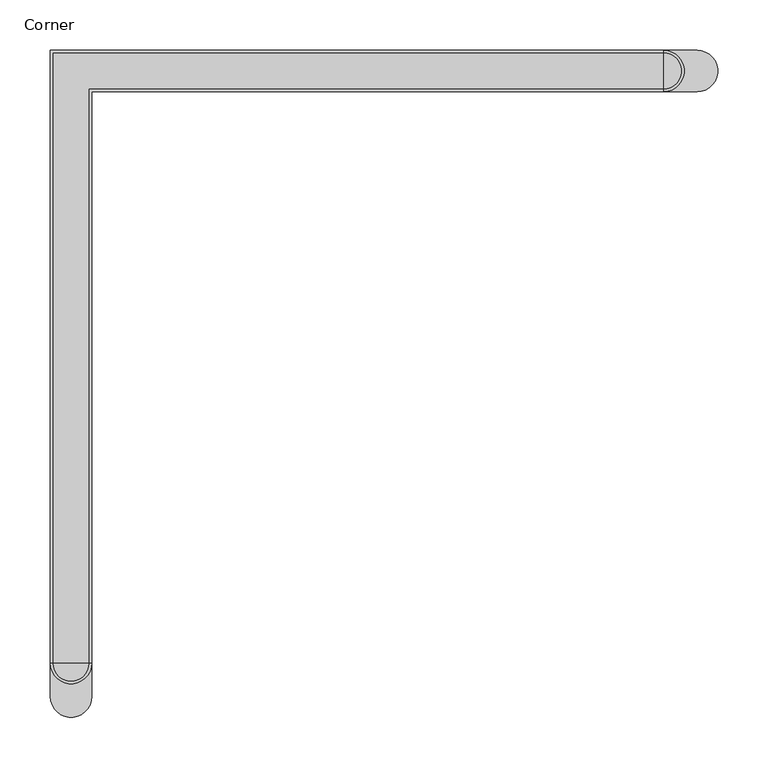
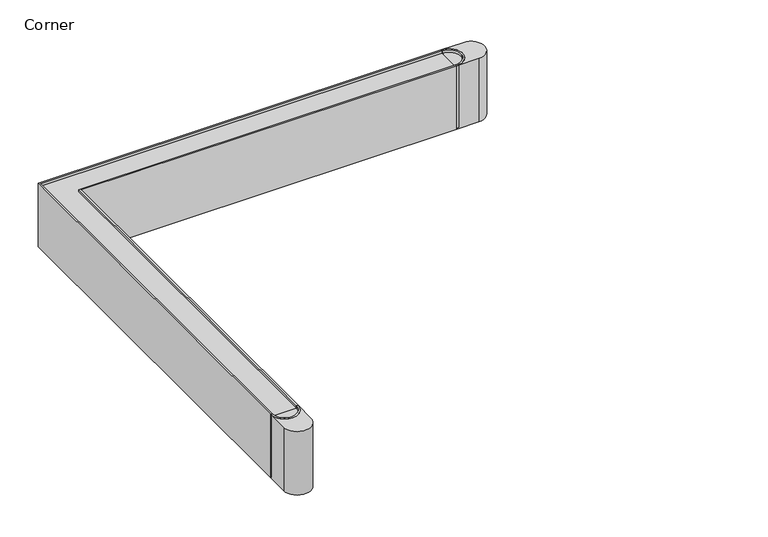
"""IFC4 building model written with IfcOpenShell, lengths in millimetres: light fixture geometry, Lighting-Recessed-Betacalco-Block-Corner : Corner."""

from ifc_helpers import new_model, si_unit, point, frame, frame_2d, origin, place, context, project, spatial, polyline, circle_curve, trimmed, segment, composite_curve, outline, extrude, source, transform, mapped, element, save
from ifc_brep_helpers import plane_surface, cylinder_surface, revolved_surface, advanced_brep


def corner_4978f48e(model_context):
    return source(origin(), model_context, "Body", "SolidModel", [
        extrude(outline(composite_curve([segment(polyline([(588.9625, -20.6375), (588.9625, -18.0975)]), True, "CONTINUOUS"), segment(trimmed(circle_curve(frame_2d((588.9625, 0.0)), 18.0975), [point((588.9625, -18.0975))], [point((588.9625, 18.0975))], True, "CARTESIAN"), True, "CONTINUOUS"), segment(polyline([(588.9625, 18.0975), (588.9625, 20.6375)]), True, "CONTINUOUS"), segment(trimmed(circle_curve(frame_2d((588.9625, 0.0)), 20.6375), [point((588.9625, 20.6375))], [point((588.9625, -20.6375))], False, "CARTESIAN"), True, "CONTINUOUS")], self_intersect=False)), frame((0.0, 0.0, -100.0125), z_axis=(0.0, 0.0, 1.0), x_axis=(1.0, 0.0, 0.0)), (0.0, 0.0, 1.0), 100.0125),
        extrude(outline(composite_curve([segment(polyline([(588.9625, -18.0975), (588.9625, 18.0975)]), True, "CONTINUOUS"), segment(trimmed(circle_curve(frame_2d((588.9625, 0.0)), 18.0975), [point((588.9625, 18.0975))], [point((588.9625, -18.0975))], False, "CARTESIAN"), True, "CONTINUOUS")], self_intersect=False)), frame((0.0, 0.0, -5.2904412), z_axis=(0.0, 0.0, 1.0), x_axis=(1.0, 0.0, 0.0)), (0.0, 0.0, 1.0), 1.5875),
        advanced_brep(
        [(588.9625, 20.6375, -100.0125), (588.9625, -20.6375, -100.0125), (588.9625, -20.6375, -101.6), (588.9625, 20.6375, -101.6), (622.3, 20.6375, -101.6), (622.3, -20.6375, -101.6), (588.9625, 20.6375, 0.0), (588.9625, -20.6375, 0.0), (622.3, -20.6375, 0.0), (622.3, 20.6375, 0.0)],
        [
            (0, 1),
            (1, 0, circle_curve(frame((588.9625, 0.0, -100.0125), z_axis=(0.0, 0.0, 1.0), x_axis=(1.0, 0.0, 0.0)), 20.6375)),
            (2, 3),
            (3, 4),
            (4, 5, circle_curve(frame((622.3, 0.0, -101.6), z_axis=(0.0, 0.0, -1.0), x_axis=(1.0, 0.0, 0.0)), 20.6375)),
            (5, 2),
            (0, 3),
            (2, 1),
            (6, 7, circle_curve(frame((588.9625, 0.0, 0.0), z_axis=(0.0, 0.0, -1.0), x_axis=(1.0, 0.0, 0.0)), 20.6375)),
            (7, 8),
            (8, 9, circle_curve(frame((622.3, 0.0, 0.0), z_axis=(0.0, 0.0, 1.0), x_axis=(1.0, 0.0, 0.0)), 20.6375)),
            (9, 6),
            (6, 0),
            (1, 7),
            (5, 8),
            (4, 9),
        ],
        [
            plane_surface(frame((609.6, 0.0, -100.0125), z_axis=(0.0, 0.0, 1.0), x_axis=(0.0, 1.0, 0.0))),
            plane_surface(frame((609.6, 0.0, -101.6), z_axis=(0.0, 0.0, -1.0), x_axis=(0.0, -1.0, 0.0))),
            plane_surface(frame((588.9625, 20.6375, -100.0125), z_axis=(-1.0, 0.0, 0.0), x_axis=(0.0, 0.0, -1.0))),
            plane_surface(frame((609.6, 0.0, 0.0), z_axis=(0.0, 0.0, 1.0), x_axis=(0.0, -1.0, 0.0))),
            revolved_surface(polyline([(609.6, 0.0, -100.0125), (609.6, 0.0, 0.0)]), (588.9625, 0.0, -101.6), (0.0, 0.0, -1.0)),
            plane_surface(frame((588.9625, -20.6375, 0.0), z_axis=(0.0, -1.0, 0.0), x_axis=(0.0, 0.0, -1.0))),
            cylinder_surface(frame((622.3, 0.0, -101.6), z_axis=(0.0, 0.0, 1.0), x_axis=(1.0, 0.0, 0.0)), 20.6375),
            plane_surface(frame((622.3, 20.6375, 0.0), z_axis=(0.0, 1.0, 0.0), x_axis=(0.0, 0.0, -1.0))),
        ],
        [
            (0, [[1, 2]]),
            (1, [[3, 4, 5, 6]]),
            (2, [[-1, 7, -3, 8]]),
            (3, [[9, 10, 11, 12]]),
            (4, [[-9, 13, -2, 14]]),
            (5, [[-10, -14, -8, -6, 15]]),
            (6, [[-11, -15, -5, 16]]),
            (7, [[-12, -16, -4, -7, -13]]),
        ],
    ),
        extrude(outline(composite_curve([segment(polyline([(-20.6375, -588.9625), (-18.0975, -588.9625)]), True, "CONTINUOUS"), segment(trimmed(circle_curve(frame_2d((0.0, -588.9625)), 18.0975), [point((-18.0975, -588.9625))], [point((18.0975, -588.9625))], True, "CARTESIAN"), True, "CONTINUOUS"), segment(polyline([(18.0975, -588.9625), (20.6375, -588.9625)]), True, "CONTINUOUS"), segment(trimmed(circle_curve(frame_2d((0.0, -588.9625)), 20.6375), [point((20.6375, -588.9625))], [point((-20.6375, -588.9625))], False, "CARTESIAN"), True, "CONTINUOUS")], self_intersect=False)), frame((0.0, 0.0, -100.0125), z_axis=(0.0, 0.0, 1.0), x_axis=(1.0, 0.0, 0.0)), (0.0, 0.0, 1.0), 100.0125),
        extrude(outline(composite_curve([segment(polyline([(-18.0975, -588.9625), (18.0975, -588.9625)]), True, "CONTINUOUS"), segment(trimmed(circle_curve(frame_2d((0.0, -588.9625)), 18.0975), [point((18.0975, -588.9625))], [point((-18.0975, -588.9625))], False, "CARTESIAN"), True, "CONTINUOUS")], self_intersect=False)), frame((0.0, 0.0, -5.2904412), z_axis=(0.0, 0.0, 1.0), x_axis=(1.0, 0.0, 0.0)), (0.0, 0.0, 1.0), 1.5875),
        advanced_brep(
        [(20.6375, -588.9625, -100.0125), (-20.6375, -588.9625, -100.0125), (-20.6375, -588.9625, -101.6), (20.6375, -588.9625, -101.6), (20.6375, -622.3, -101.6), (-20.6375, -622.3, -101.6), (20.6375, -588.9625, 0.0), (-20.6375, -588.9625, 0.0), (-20.6375, -622.3, 0.0), (20.6375, -622.3, 0.0)],
        [
            (0, 1),
            (1, 0, circle_curve(frame((0.0, -588.9625, -100.0125), z_axis=(0.0, 0.0, 1.0), x_axis=(0.0, -1.0, 0.0)), 20.6375)),
            (2, 3),
            (3, 4),
            (4, 5, circle_curve(frame((0.0, -622.3, -101.6), z_axis=(0.0, 0.0, -1.0), x_axis=(0.0, -1.0, 0.0)), 20.6375)),
            (5, 2),
            (0, 3),
            (2, 1),
            (6, 7, circle_curve(frame((0.0, -588.9625, 0.0), z_axis=(0.0, 0.0, -1.0), x_axis=(0.0, -1.0, 0.0)), 20.6375)),
            (7, 8),
            (8, 9, circle_curve(frame((0.0, -622.3, 0.0), z_axis=(0.0, 0.0, 1.0), x_axis=(0.0, -1.0, 0.0)), 20.6375)),
            (9, 6),
            (6, 0),
            (1, 7),
            (5, 8),
            (4, 9),
        ],
        [
            plane_surface(frame((0.0, -609.6, -100.0125), z_axis=(0.0, 0.0, 1.0), x_axis=(1.0, 0.0, 0.0))),
            plane_surface(frame((0.0, -609.6, -101.6), z_axis=(0.0, 0.0, -1.0), x_axis=(-1.0, 0.0, 0.0))),
            plane_surface(frame((20.6375, -588.9625, -100.0125), z_axis=(0.0, 1.0, 0.0), x_axis=(0.0, 0.0, -1.0))),
            plane_surface(frame((0.0, -609.6, 0.0), z_axis=(0.0, 0.0, 1.0), x_axis=(-1.0, 0.0, 0.0))),
            revolved_surface(polyline([(0.0, -609.6, -100.0125), (0.0, -609.6, 0.0)]), (0.0, -588.9625, -101.6), (0.0, 0.0, -1.0)),
            plane_surface(frame((-20.6375, -588.9625, 0.0), z_axis=(-1.0, 0.0, 0.0), x_axis=(0.0, 0.0, -1.0))),
            cylinder_surface(frame((0.0, -622.3, -101.6), z_axis=(0.0, 0.0, 1.0), x_axis=(0.0, -1.0, 0.0)), 20.6375),
            plane_surface(frame((20.6375, -622.3, 0.0), z_axis=(1.0, 0.0, 0.0), x_axis=(0.0, 0.0, -1.0))),
        ],
        [
            (0, [[1, 2]]),
            (1, [[3, 4, 5, 6]]),
            (2, [[-1, 7, -3, 8]]),
            (3, [[9, 10, 11, 12]]),
            (4, [[-9, 13, -2, 14]]),
            (5, [[-10, -14, -8, -6, 15]]),
            (6, [[-11, -15, -5, 16]]),
            (7, [[-12, -16, -4, -7, -13]]),
        ],
    ),
        advanced_brep(
        [(0.0, 0.0, -101.6), (-2.54, 0.0, -101.6), (2.54, 0.0, -101.6), (2.54, 0.0, -100.0125), (-2.54, 0.0, -100.0125), (0.0, 0.0, -100.0125)],
        [
            (0, 1),
            (1, 2, circle_curve(frame((0.0, 0.0, -101.6), z_axis=(0.0, 0.0, -1.0), x_axis=(-1.0, 0.0, 0.0)), 2.54)),
            (2, 0),
            (2, 1, circle_curve(frame((0.0, 0.0, -101.6), z_axis=(0.0, 0.0, -1.0), x_axis=(-1.0, 0.0, 0.0)), 2.54)),
            (3, 4, circle_curve(frame((0.0, 0.0, -100.0125), z_axis=(0.0, 0.0, 1.0), x_axis=(-1.0, 0.0, 0.0)), 2.54)),
            (4, 5),
            (5, 3),
            (4, 3, circle_curve(frame((0.0, 0.0, -100.0125), z_axis=(0.0, 0.0, 1.0), x_axis=(-1.0, 0.0, 0.0)), 2.54)),
            (1, 4),
            (3, 2),
        ],
        [
            plane_surface(frame((0.0, 0.0, -101.6), z_axis=(0.0, 0.0, -1.0), x_axis=(-1.0, 0.0, 0.0))),
            plane_surface(frame((0.0, 0.0, -100.0125), z_axis=(0.0, 0.0, 1.0), x_axis=(-1.0, 0.0, 0.0))),
            cylinder_surface(frame((0.0, 0.0, -97.162083), z_axis=(0.0, 0.0, -1.0), x_axis=(-1.0, 0.0, 0.0)), 2.54),
        ],
        [
            (0, [[1, 2, 3]]),
            (0, [[-3, 4, -1]]),
            (1, [[5, 6, 7]]),
            (1, [[8, -7, -6]]),
            (2, [[-2, 9, -5, 10]]),
            (2, [[-4, -10, -8, -9]]),
        ],
    ),
        extrude(outline(polyline([(588.9625, 18.0975), (588.9625, -18.0975), (18.0975, -18.0975), (18.0975, -588.9625), (-18.0975, -588.9625), (-18.0975, 18.0975), (588.9625, 18.0975)])), frame((0.0, 0.0, -101.6), z_axis=(0.0, 0.0, 1.0), x_axis=(1.0, 0.0, 0.0)), (0.0, 0.0, 1.0), 1.5875),
        extrude(outline(polyline([(588.9625, 18.0975), (588.9625, -18.0975), (18.0975, -18.0975), (18.0975, -588.9625), (-18.0975, -588.9625), (-18.0975, 18.0975), (588.9625, 18.0975)])), frame((0.0, 0.0, -47.912087), z_axis=(0.0, 0.0, 1.0), x_axis=(1.0, 0.0, 0.0)), (0.0, 0.0, 1.0), 1.5875),
        extrude(outline(polyline([(588.9625, 18.0975), (588.9625, -18.0975), (18.0975, -18.0975), (18.0975, -588.9625), (-18.0975, -588.9625), (-18.0975, 18.0975), (588.9625, 18.0975)])), frame((0.0, 0.0, -5.2904412), z_axis=(0.0, 0.0, 1.0), x_axis=(1.0, 0.0, 0.0)), (0.0, 0.0, 1.0), 1.5875),
        extrude(outline(polyline([(588.9625, 20.6375), (588.9625, 18.0975), (-18.0975, 18.0975), (-18.0975, -588.9625), (-20.6375, -588.9625), (-20.6375, 20.6375), (588.9625, 20.6375)])), frame((0.0, 0.0, -101.6), z_axis=(0.0, 0.0, 1.0), x_axis=(1.0, 0.0, 0.0)), (0.0, 0.0, 1.0), 101.6),
        extrude(outline(polyline([(588.9625, -18.0975), (588.9625, -20.6375), (20.6375, -20.6375), (20.6375, -588.9625), (18.0975, -588.9625), (18.0975, -18.0975), (588.9625, -18.0975)])), frame((0.0, 0.0, -101.6), z_axis=(0.0, 0.0, 1.0), x_axis=(1.0, 0.0, 0.0)), (0.0, 0.0, 1.0), 101.6),
    ])


if __name__ == "__main__":
    model = new_model("IFC4")
    model_context = context("Model", 3, world=origin())
    ifc_project = project(units=[si_unit("LENGTHUNIT", "METRE", prefix="MILLI")], contexts=[model_context])
    site = spatial("IfcSite", under=ifc_project)
    building = spatial("IfcBuilding", under=site)
    placement = place(None, origin())
    corner_shape = corner_4978f48e(model_context)
    element("IfcLightFixture", 1, ObjectType="Lighting-Recessed-Betacalco-Block-Corner : Corner", at=placement, inside=building, context=model_context, shape_type="MappedRepresentation", body=[
        mapped(corner_shape, transform((0.0, 0.0, 0.0), x_axis=(1.0, 0.0, 0.0), y_axis=(0.0, 1.0, 0.0), z_axis=(0.0, 0.0, 1.0))),
    ])
    save(model, "model.ifc")
